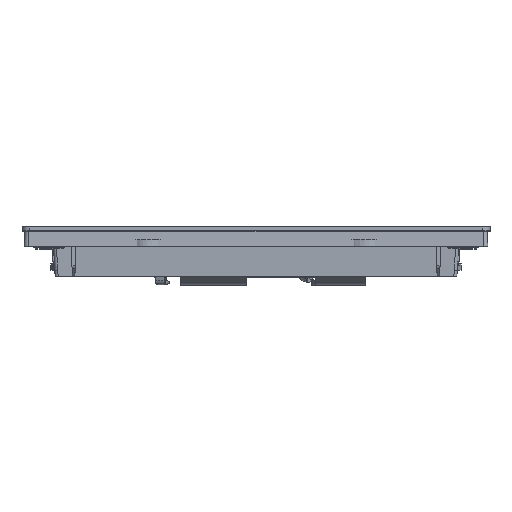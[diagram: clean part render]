
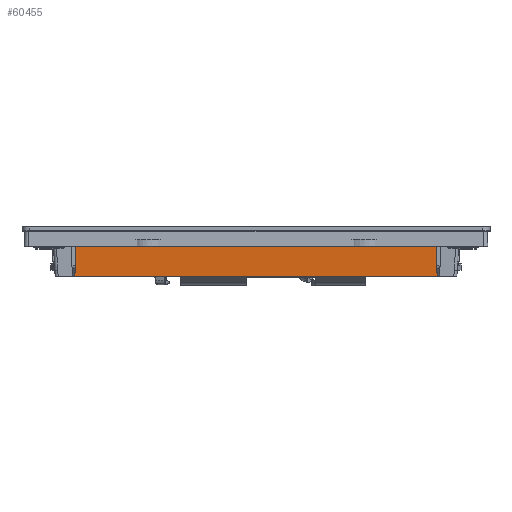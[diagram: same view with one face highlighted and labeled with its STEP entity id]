
A CAD part, top view. The second image highlights one B-rep face of the part: STEP entity #60455.
In plain terms, the highlighted planar face has unit normal (0, -0.052, 0.999) as drawn and (0, 0.052, 0.999) by its records, which use the part's own axes.
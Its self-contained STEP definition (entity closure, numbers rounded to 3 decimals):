
#40065=DIRECTION('',(1.,0.,0.));
#40066=VECTOR('',#40065,182.);
#40067=CARTESIAN_POINT('',(-91.,3.5,60.129));
#40068=LINE('',#40067,#40066);
#41171=DIRECTION('',(1.,0.,0.));
#41172=VECTOR('',#41171,182.628);
#41173=CARTESIAN_POINT('',(-91.314,18.487,
59.33));
#41174=LINE('',#41173,#41172);
#46760=DIRECTION('',(-0.021,0.998,-0.053));
#46761=VECTOR('',#46760,15.011);
#46762=CARTESIAN_POINT('',(-91.,3.5,60.129));
#46763=LINE('',#46762,#46761);
#46764=DIRECTION('',(-0.021,-0.998,0.053));
#46765=VECTOR('',#46764,15.011);
#46766=CARTESIAN_POINT('',(91.314,18.487,59.33));
#46767=LINE('',#46766,#46765);
#48785=CARTESIAN_POINT('',(-91.,3.5,60.129));
#48786=VERTEX_POINT('',#48785);
#48793=CARTESIAN_POINT('',(-91.314,18.487,
59.33));
#48795=VERTEX_POINT('',#48793);
#50105=CARTESIAN_POINT('',(91.,3.5,60.129));
#50106=VERTEX_POINT('',#50105);
#50129=CARTESIAN_POINT('',(91.314,18.487,59.33));
#50131=VERTEX_POINT('',#50129);
#60442=CARTESIAN_POINT('',(-101.5,15.5,59.5));
#60443=DIRECTION('',(0.,0.052,0.999));
#60444=DIRECTION('',(1.,0.,0.));
#60445=AXIS2_PLACEMENT_3D('',#60442,#60443,#60444);
#60446=PLANE('',#60445);
#60448=ORIENTED_EDGE('',*,*,#60447,.T.);
#60449=ORIENTED_EDGE('',*,*,#52150,.T.);
#60451=ORIENTED_EDGE('',*,*,#60450,.T.);
#60452=ORIENTED_EDGE('',*,*,#50964,.F.);
#60453=EDGE_LOOP('',(#60448,#60449,#60451,#60452));
#60454=FACE_OUTER_BOUND('',#60453,.F.);
#60455=ADVANCED_FACE('',(#60454),#60446,.T.);
#50964=EDGE_CURVE('',#48786,#50106,#40068,.T.);
#52150=EDGE_CURVE('',#48795,#50131,#41174,.T.);
#60447=EDGE_CURVE('',#48786,#48795,#46763,.T.);
#60450=EDGE_CURVE('',#50131,#50106,#46767,.T.);
